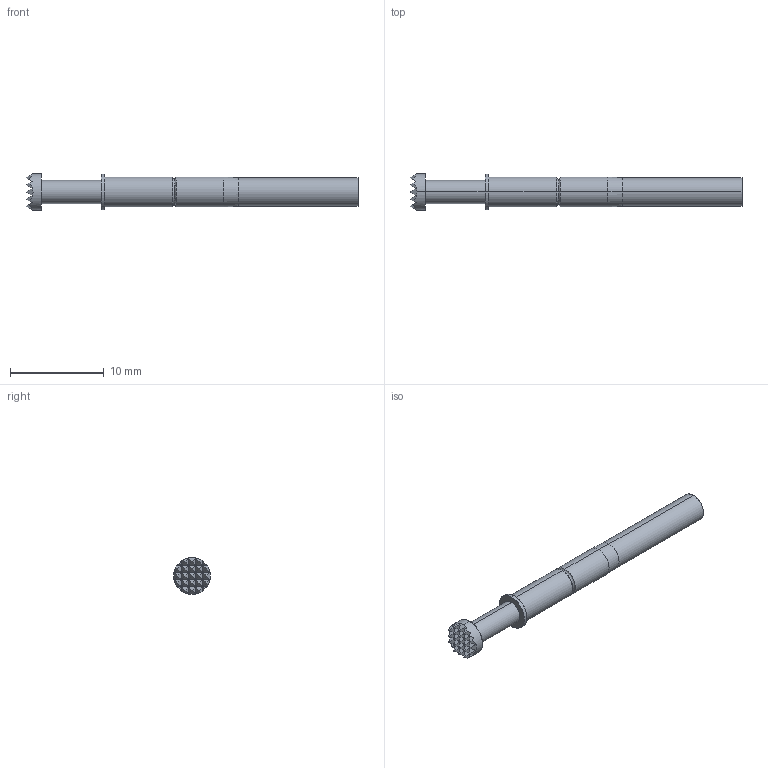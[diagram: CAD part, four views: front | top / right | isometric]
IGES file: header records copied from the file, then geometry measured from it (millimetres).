
Start section: SolidWorks IGES file using analytic representation for surfaces
Global section: file name: O:\PYLON\IGES FILES\P2550\P2550-6.IGS; native system: SolidWorks 2015; preprocessor: SolidWorks 2015; author: kgolden; date: 171020.112306; units: inch
Bounding box: 35.38 x 3.91 x 3.91 mm (x, y, z)
Surface area: 444.5 mm2 (no closed solid volume)
Topology: 0 solids, 0 shells, 112 faces, 726 edges, 724 vertices
Faces by surface type: bspline 96, revolution 16
